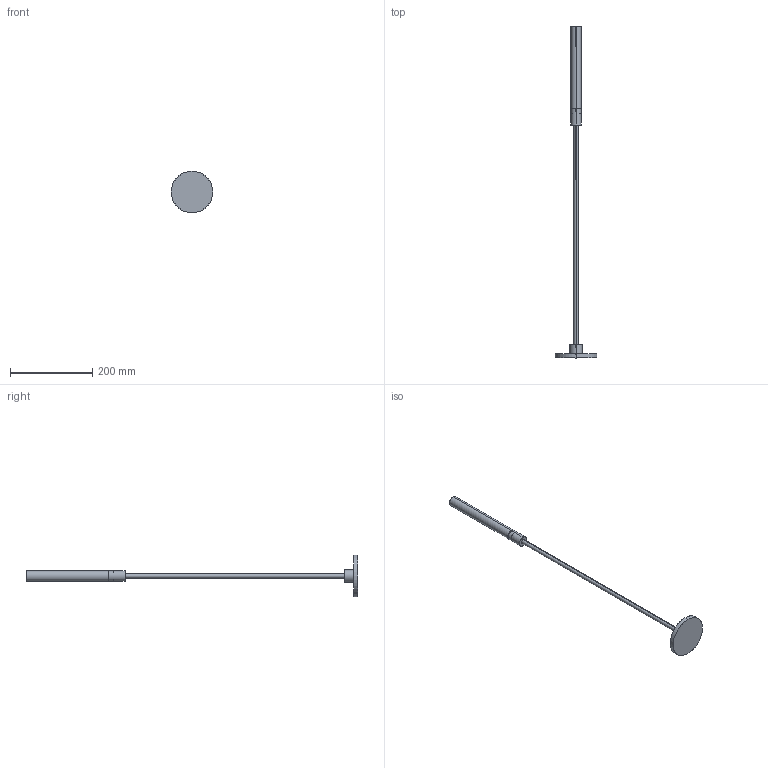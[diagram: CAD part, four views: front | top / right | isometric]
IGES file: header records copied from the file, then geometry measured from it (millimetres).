
Start section: SolidWorks IGES file using analytic representation for surfaces
Global section: file name: C:\Users\anna.bielnik\Desktop\ZOLA-LED-S\zola-LED-S.IGS; native system: SolidWorks 2023; preprocessor: SolidWorks 2023; author: anna.bielnik; date: 241128.140205; units: millimetre
Bounding box: 101 x 805.2 x 101 mm (x, y, z)
Surface area: 59248.3 mm2 (no closed solid volume)
Topology: 0 solids, 0 shells, 24 faces, 600 edges, 600 vertices
Faces by surface type: revolution 14, bspline 10
